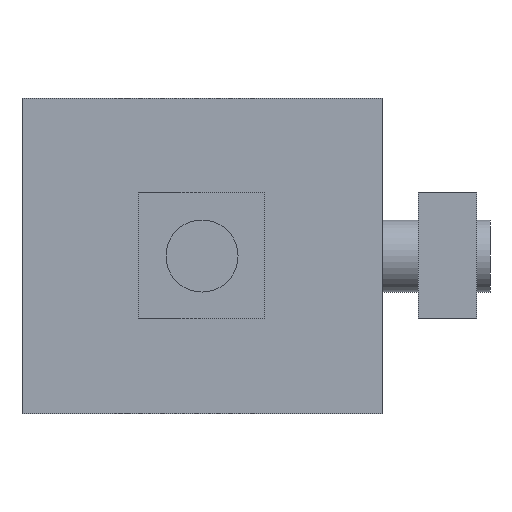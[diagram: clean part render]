
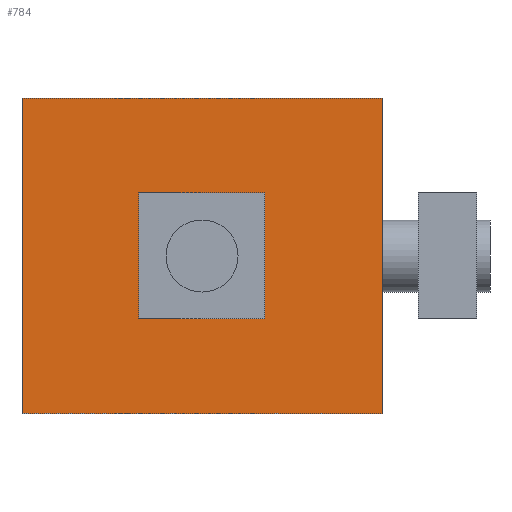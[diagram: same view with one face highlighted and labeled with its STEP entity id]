
A CAD part, left-side view. The second image highlights one B-rep face of the part: STEP entity #784.
In plain terms, the highlighted planar face has unit normal (-1, 0, 0).
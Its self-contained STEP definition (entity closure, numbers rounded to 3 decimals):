
#123=CARTESIAN_POINT('',(0.0,24.5,0.));
#124=VERTEX_POINT('',#123);
#125=CARTESIAN_POINT('',(0.0,20.0,0.0));
#126=DIRECTION('',(1.0,0.0,0.0));
#127=DIRECTION('',(0.0,1.0,0.0));
#128=AXIS2_PLACEMENT_3D('',#125,#126,#127);
#129=CIRCLE('',#128,4.5);
#130=EDGE_CURVE('',#124,#124,#129,.T.);
#695=CARTESIAN_POINT('',(0.0,0.0,-17.5));
#696=VERTEX_POINT('',#695);
#703=CARTESIAN_POINT('',(0.0,40.0,-17.5));
#704=VERTEX_POINT('',#703);
#705=CARTESIAN_POINT('',(0.0,40.0,-17.5));
#706=DIRECTION('',(0.0,-1.0,0.0));
#707=VECTOR('',#706,40.0);
#708=LINE('',#705,#707);
#709=EDGE_CURVE('',#704,#696,#708,.T.);
#751=CARTESIAN_POINT('',(0.0,0.0,0.0));
#752=DIRECTION('',(-1.0,0.0,0.0));
#753=DIRECTION('',(0.0,0.0,1.0));
#754=AXIS2_PLACEMENT_3D('',#751,#752,#753);
#755=PLANE('',#754);
#756=CARTESIAN_POINT('',(0.0,0.0,17.5));
#757=VERTEX_POINT('',#756);
#758=CARTESIAN_POINT('',(0.0,40.0,17.5));
#759=VERTEX_POINT('',#758);
#760=CARTESIAN_POINT('',(0.0,0.0,17.5));
#761=DIRECTION('',(0.0,1.0,0.0));
#762=VECTOR('',#761,40.0);
#763=LINE('',#760,#762);
#764=EDGE_CURVE('',#757,#759,#763,.T.);
#765=ORIENTED_EDGE('',*,*,#764,.T.);
#766=CARTESIAN_POINT('',(0.0,40.0,17.5));
#767=DIRECTION('',(0.0,0.0,-1.0));
#768=VECTOR('',#767,35.0);
#769=LINE('',#766,#768);
#770=EDGE_CURVE('',#759,#704,#769,.T.);
#771=ORIENTED_EDGE('',*,*,#770,.T.);
#772=ORIENTED_EDGE('',*,*,#709,.T.);
#773=CARTESIAN_POINT('',(0.0,0.0,17.5));
#774=DIRECTION('',(0.0,0.0,-1.0));
#775=VECTOR('',#774,35.0);
#776=LINE('',#773,#775);
#777=EDGE_CURVE('',#757,#696,#776,.T.);
#778=ORIENTED_EDGE('',*,*,#777,.F.);
#779=EDGE_LOOP('',(#765,#771,#772,#778));
#780=FACE_OUTER_BOUND('',#779,.T.);
#781=ORIENTED_EDGE('',*,*,#130,.T.);
#782=EDGE_LOOP('',(#781));
#783=FACE_BOUND('',#782,.T.);
#784=ADVANCED_FACE('',(#780,#783),#755,.T.);
